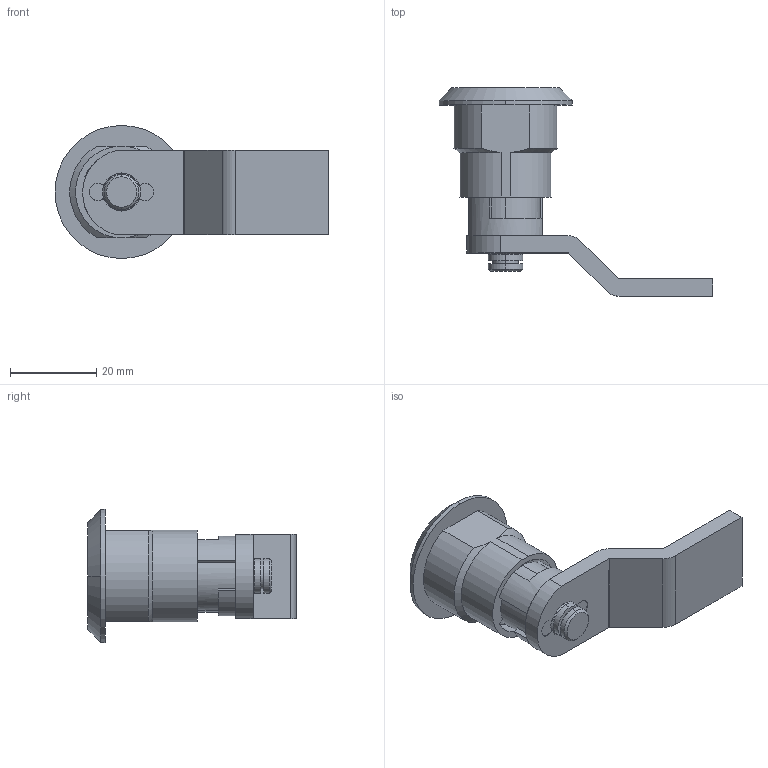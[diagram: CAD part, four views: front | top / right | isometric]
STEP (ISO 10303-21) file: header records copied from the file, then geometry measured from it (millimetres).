
FILE_DESCRIPTION (( 'STEP AP214' ), '1' );
FILE_NAME ('M24.STEP', '2010-02-22T16:28:21', ( '£ukaszC' ), ( '' ), 'SwSTEP 2.0', 'SolidWorks 2008', '' );
FILE_SCHEMA (( 'AUTOMOTIVE_DESIGN' ));
Length unit declared in the file: millimetre
Products named in the file (6): 2.M24.02.06.4_Domyœlna; Jêzyk4_Domyœlna; Adapter jêzyka4_Domyœlna; sprê¿yna M24_Domyœlna4_Domyœlna; 2.M24.01.00.00_Domyœlna4_Domyœlna; M24
Assembly tree (5 placements, depth 2):
  M24
    Jêzyk4_Domyœlna
    Adapter jêzyka4_Domyœlna
    2.M24.01.00.00_Domyœlna4_Domyœlna
    2.M24.02.06.4_Domyœlna
    sprê¿yna M24_Domyœlna4_Domyœlna
Bounding box: 63.4 x 48.25 x 30.8 mm (x, y, z)
Volume: 14701.9 mm3; surface area: 10959.5 mm2
Topology: 5 solids, 5 shells, 123 faces, 296 edges, 194 vertices
Faces by surface type: cylinder 60, plane 49, cone 8, bspline 6
Entity records: 8454 total; most frequent: CARTESIAN_POINT 3965, DIRECTION 666, ORIENTED_EDGE 592, EDGE_CURVE 296, AXIS2_PLACEMENT_3D 263, VERTEX_POINT 194, EDGE_LOOP 140, VECTOR 140
